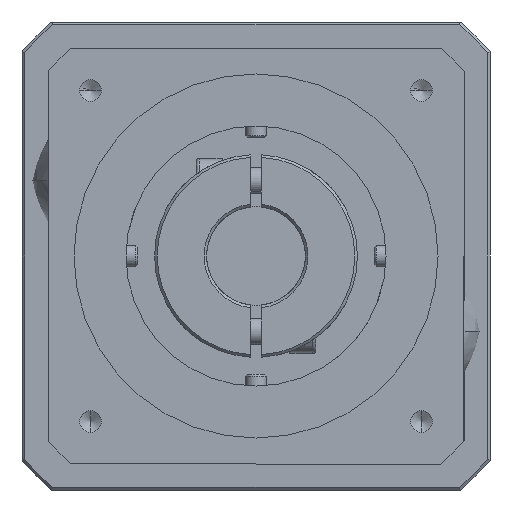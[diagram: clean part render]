
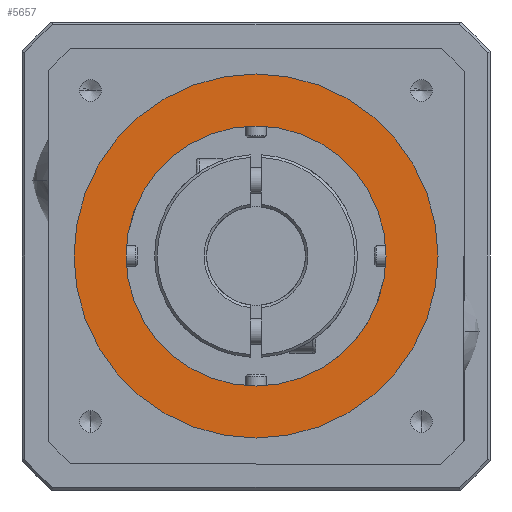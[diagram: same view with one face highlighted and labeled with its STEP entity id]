
A CAD part, left-side view. The second image highlights one B-rep face of the part: STEP entity #5657.
In plain terms, the highlighted planar face has unit normal (-1, 0, 0) as drawn and (0, 0, 1) by its records, which use the part's own axes.
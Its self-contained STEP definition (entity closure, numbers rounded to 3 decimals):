
#282 = VERTEX_POINT ( 'NONE', #3426 ) ;
#647 = CARTESIAN_POINT ( 'NONE',  ( 0., 0., 33.5 ) ) ;
#670 = DIRECTION ( 'NONE',  ( 1., 0., 0. ) ) ;
#770 = DIRECTION ( 'NONE',  ( 1., 0., 0. ) ) ;
#978 = CARTESIAN_POINT ( 'NONE',  ( 0., 0., 33.5 ) ) ;
#1332 = CARTESIAN_POINT ( 'NONE',  ( -35., 0., 33.5 ) ) ;
#1388 = ORIENTED_EDGE ( 'NONE', *, *, #5759, .T. ) ;
#1762 = CIRCLE ( 'NONE', #7190, 25. ) ;
#2067 = CARTESIAN_POINT ( 'NONE',  ( 0., 0., 33.5 ) ) ;
#2634 = EDGE_LOOP ( 'NONE', ( #8417, #4755 ) ) ;
#2772 = VERTEX_POINT ( 'NONE', #4723 ) ;
#2779 = FACE_BOUND ( 'NONE', #4600, .T. ) ;
#3204 = AXIS2_PLACEMENT_3D ( 'NONE', #5691, #4989, #770 ) ;
#3426 = CARTESIAN_POINT ( 'NONE',  ( -25., 0., 33.5 ) ) ;
#3478 = DIRECTION ( 'NONE',  ( 0., 0., 1. ) ) ;
#3667 = CIRCLE ( 'NONE', #3204, 35. ) ;
#4018 = EDGE_CURVE ( 'NONE', #2772, #5029, #3667, .T. ) ;
#4265 = EDGE_CURVE ( 'NONE', #282, #8468, #7732, .T. ) ;
#4329 = AXIS2_PLACEMENT_3D ( 'NONE', #978, #5948, #5890 ) ;
#4600 = EDGE_LOOP ( 'NONE', ( #1388, #6542 ) ) ;
#4624 = EDGE_CURVE ( 'NONE', #5029, #2772, #8290, .T. ) ;
#4723 = CARTESIAN_POINT ( 'NONE',  ( 35., 0., 33.5 ) ) ;
#4755 = ORIENTED_EDGE ( 'NONE', *, *, #4624, .T. ) ;
#4989 = DIRECTION ( 'NONE',  ( 0., 0., 1. ) ) ;
#5029 = VERTEX_POINT ( 'NONE', #1332 ) ;
#5171 = AXIS2_PLACEMENT_3D ( 'NONE', #647, #8409, #7714 ) ;
#5212 = CARTESIAN_POINT ( 'NONE',  ( 0., 0., 33.5 ) ) ;
#5657 = ADVANCED_FACE ( 'NONE', ( #5761, #2779 ), #8380, .T. ) ;
#5691 = CARTESIAN_POINT ( 'NONE',  ( 0., 0., 33.5 ) ) ;
#5759 = EDGE_CURVE ( 'NONE', #8468, #282, #1762, .T. ) ;
#5761 = FACE_OUTER_BOUND ( 'NONE', #2634, .T. ) ;
#5890 = DIRECTION ( 'NONE',  ( 1., 0., 0. ) ) ;
#5948 = DIRECTION ( 'NONE',  ( 0., 0., -1. ) ) ;
#6542 = ORIENTED_EDGE ( 'NONE', *, *, #4265, .T. ) ;
#7190 = AXIS2_PLACEMENT_3D ( 'NONE', #5212, #8738, #7229 ) ;
#7229 = DIRECTION ( 'NONE',  ( 1., 0., 0. ) ) ;
#7714 = DIRECTION ( 'NONE',  ( 1., 0., 0. ) ) ;
#7732 = CIRCLE ( 'NONE', #4329, 25. ) ;
#8260 = AXIS2_PLACEMENT_3D ( 'NONE', #2067, #3478, #670 ) ;
#8290 = CIRCLE ( 'NONE', #8260, 35. ) ;
#8380 = PLANE ( 'NONE',  #5171 ) ;
#8409 = DIRECTION ( 'NONE',  ( 0., 0., 1. ) ) ;
#8417 = ORIENTED_EDGE ( 'NONE', *, *, #4018, .T. ) ;
#8468 = VERTEX_POINT ( 'NONE', #8965 ) ;
#8738 = DIRECTION ( 'NONE',  ( 0., 0., -1. ) ) ;
#8965 = CARTESIAN_POINT ( 'NONE',  ( 25., 0., 33.5 ) ) ;
